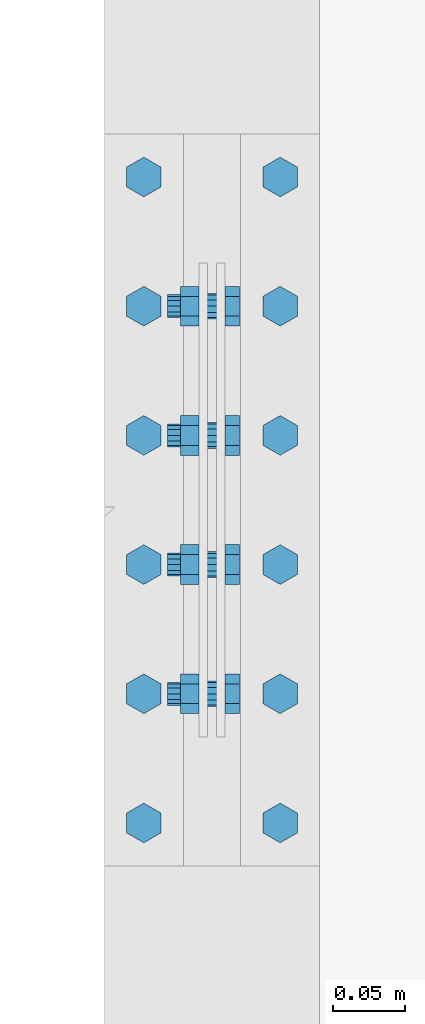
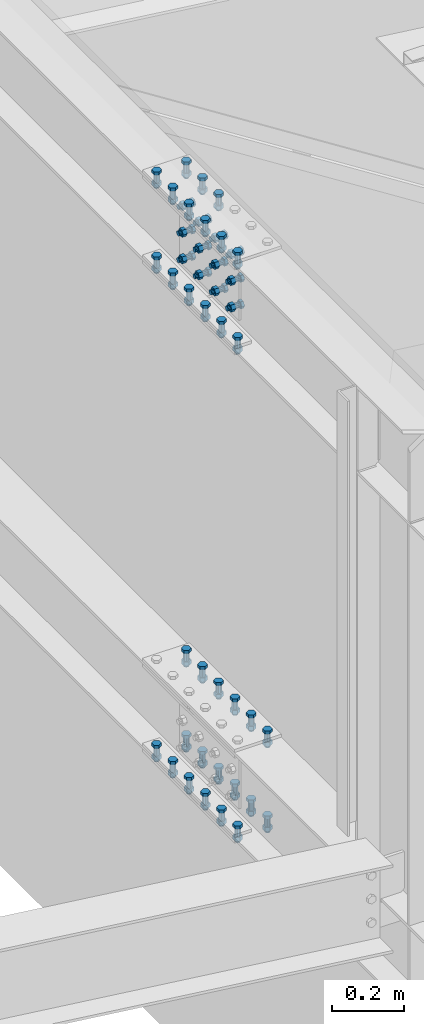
# One storey, part 376 of 3134: 13 mechanical fasteners, 2 elements without a shape of their own.
"""IFC2X3 building model written with IfcOpenShell, lengths in millimetres."""

import ifcopenshell
import ifcopenshell.guid

model = None  # the IFC model being written
_history = None  # IfcOwnerHistory: only IFC2X3 demands one
_inside = {}  # id of a spatial element -> (the spatial element, [elements in it])
_under = {}  # id of a project, library or spatial element -> (it, [spatial elements below it])
_declared = {}  # id of a project -> (the project, [libraries it declares])
_typed = {}  # id of a type object -> (the type object, [elements of that type])
_made_of = {}  # id of a material, layer set ... -> (it, [elements and type objects made of it])


def new_model(schema):
    """Start an empty IFC model of exactly this schema.

    Asked for "IFC4X3", IfcOpenShell would pick the latest addendum, in which some entities
    have other attributes; the version numbers below select the first issue.
    IFC2X3 requires an IfcOwnerHistory on every rooted entity: one is made here for all.
    """
    global model, _history
    if schema == "IFC4X3":
        model = ifcopenshell.file(schema_version=(4, 3, 0, 0))
    else:
        model = ifcopenshell.file(schema=schema)
    _inside.clear()
    _under.clear()
    _declared.clear()
    _typed.clear()
    _made_of.clear()
    _history = None
    if model.schema == "IFC2X3":
        org = make("IfcOrganization", Name="unknown")
        user = make(
            "IfcPersonAndOrganization",
            ThePerson=make("IfcPerson", FamilyName="unknown"),
            TheOrganization=org,
        )
        app = make(
            "IfcApplication",
            ApplicationDeveloper=org,
            Version="unknown",
            ApplicationFullName="unknown",
            ApplicationIdentifier="unknown",
        )
        _history = make(
            "IfcOwnerHistory",
            OwningUser=user,
            OwningApplication=app,
            ChangeAction="ADDED",
            CreationDate=0,
        )
    return model


def make(cls, **values):
    """One entity of the class cls with the attributes given. An attribute that is None is left unset."""
    return model.create_entity(
        cls, **{name: value for name, value in values.items() if value is not None}
    )


def rooted(cls, **values):
    """An entity with a GlobalId (a new one), such as an element, a storey or a relation."""
    return make(cls, GlobalId=ifcopenshell.guid.new(), OwnerHistory=_history, **values)


def si_unit(unit_type, name, prefix=None):
    """IfcSIUnit, for example si_unit("LENGTHUNIT", "METRE", prefix="MILLI")."""
    return make("IfcSIUnit", UnitType=unit_type, Prefix=prefix, Name=name)


def assignment(units):
    """IfcUnitAssignment: the units of a project."""
    return None if units is None else make("IfcUnitAssignment", Units=units)


def point(xyz):
    """IfcCartesianPoint."""
    return None if xyz is None else make("IfcCartesianPoint", Coordinates=xyz)


def direction(xyz):
    """IfcDirection."""
    return None if xyz is None else make("IfcDirection", DirectionRatios=xyz)


def frame(location, z_axis=None, x_axis=None):
    """IfcAxis2Placement3D, a coordinate frame: its origin and axes. An axis left out is left unset."""
    return make(
        "IfcAxis2Placement3D",
        Location=point(location),
        Axis=direction(z_axis),
        RefDirection=direction(x_axis),
    )


def origin_with_axes():
    """The frame at (0, 0, 0) with the z axis (0, 0, 1) and the x axis (1, 0, 0) written out."""
    return frame((0.0, 0.0, 0.0), z_axis=(0.0, 0.0, 1.0), x_axis=(1.0, 0.0, 0.0))


def place(relative_to, where):
    """IfcLocalPlacement: puts the frame where relative to a parent placement (None: the world)."""
    return make(
        "IfcLocalPlacement", PlacementRelTo=relative_to, RelativePlacement=where
    )


def context(
    kind, dimensions, precision=None, world=None, true_north=None, identifier=None
):
    """IfcGeometricRepresentationContext, for example the 3D "Model" context."""
    return make(
        "IfcGeometricRepresentationContext",
        ContextIdentifier=identifier,
        ContextType=kind,
        CoordinateSpaceDimension=dimensions,
        Precision=precision,
        WorldCoordinateSystem=world,
        TrueNorth=true_north,
    )


def subcontext(parent, identifier, kind, view, scale=None):
    """IfcGeometricRepresentationSubContext, for example "Body" below "Model"."""
    return make(
        "IfcGeometricRepresentationSubContext",
        ContextIdentifier=identifier,
        ContextType=kind,
        ParentContext=parent,
        TargetScale=scale,
        TargetView=view,
    )


def project(units=None, contexts=None):
    """IfcProject with its units and contexts."""
    return rooted(
        "IfcProject",
        Name="project",
        RepresentationContexts=contexts,
        UnitsInContext=assignment(units),
    )


def spatial(cls, under=None, at=None, **own):
    """A site, building, storey or space (cls), placed at a placement, below another one or the project."""
    s = rooted(cls, ObjectPlacement=at, **own)
    if under is not None:
        _under.setdefault(under.id(), (under, []))[1].append(s)
    return s


def faces_of(points, faces, orient=None, outer=None):
    """IfcFace entities. A face is a list of loops; a loop is a list of indices into points, from 0.

    orient and outer hold one flag for each loop. By default every Orientation is true, the
    first loop of a face is its IfcFaceOuterBound and the others are IfcFaceBound.
    """
    made = []
    for i, loops in enumerate(faces):
        bounds = []
        for j, loop in enumerate(loops):
            is_outer = j == 0 if outer is None else outer[i][j]
            bounds.append(
                make(
                    "IfcFaceOuterBound" if is_outer else "IfcFaceBound",
                    Bound=make("IfcPolyLoop", Polygon=[points[k] for k in loop]),
                    Orientation=True if orient is None else orient[i][j],
                )
            )
        made.append(make("IfcFace", Bounds=bounds))
    return made


def faceted_brep(points, faces, orient=None, outer=None, voids=None):
    """IfcFacetedBrep: a solid bounded by flat faces; with voids (closed shells), ...WithVoids."""
    shared = [point(p) for p in points]
    hull = make("IfcClosedShell", CfsFaces=faces_of(shared, faces, orient, outer))
    if voids is None:
        return make("IfcFacetedBrep", Outer=hull)
    return make(
        "IfcFacetedBrepWithVoids",
        Outer=hull,
        Voids=[
            make(cls, CfsFaces=faces_of(shared, fs, o, b)) for cls, fs, o, b in voids
        ],
    )


def shape(context_of_items, identifier, shape_type, items):
    """IfcShapeRepresentation: the items that make up one representation, for example the "Body"."""
    return make(
        "IfcShapeRepresentation",
        ContextOfItems=context_of_items,
        RepresentationIdentifier=identifier,
        RepresentationType=shape_type,
        Items=items,
    )


def source(mapping_origin, context_of_items, identifier, shape_type, items):
    """IfcRepresentationMap: a shape defined once, which mapped items show again and again."""
    return make(
        "IfcRepresentationMap",
        MappingOrigin=mapping_origin,
        MappedRepresentation=shape(context_of_items, identifier, shape_type, items),
    )


def transform(
    local_origin,
    x_axis=None,
    y_axis=None,
    z_axis=None,
    scale=None,
    scale2=None,
    scale3=None,
    uniform=True,
):
    """IfcCartesianTransformationOperator3D, or its non-uniform kind. x_axis, y_axis, z_axis: its Axis1, 2, 3."""
    if uniform:
        return make(
            "IfcCartesianTransformationOperator3D",
            Axis1=direction(x_axis),
            Axis2=direction(y_axis),
            LocalOrigin=point(local_origin),
            Scale=scale,
            Axis3=direction(z_axis),
        )
    return make(
        "IfcCartesianTransformationOperator3DnonUniform",
        Axis1=direction(x_axis),
        Axis2=direction(y_axis),
        LocalOrigin=point(local_origin),
        Scale=scale,
        Axis3=direction(z_axis),
        Scale2=scale2,
        Scale3=scale3,
    )


def mapped(mapping_source, mapping_target):
    """IfcMappedItem: shows the shape of a source again, moved by a transform."""
    return make(
        "IfcMappedItem", MappingSource=mapping_source, MappingTarget=mapping_target
    )


def material(Name=None, Category=None):
    """IfcMaterial."""
    return make("IfcMaterial", Name=Name, Category=Category)


def made_of(thing, what):
    """Note that an element or type object is made of a material, layer set ...; save() writes the relation."""
    if what is not None:
        _made_of.setdefault(what.id(), (what, []))[1].append(thing)
    return thing


def type_object(cls, material=None, **own):
    """A type object (cls), such as IfcWallType, which elements share."""
    return made_of(rooted(cls, **own), material)


def element(
    cls,
    number,
    at=None,
    inside=None,
    cuts=None,
    type_object=None,
    material=None,
    context=None,
    identifier="Body",
    shape_type=None,
    held_by="IfcProductDefinitionShape",
    body=None,
    shapes=None,
    **own,
):
    """One element of the class cls, such as IfcWall. Its Tag is "e" and its number.

    at: its placement. inside: the storey or other place that contains it. cuts: it is an
    opening in that element (IfcRelVoidsElement). A single representation is given by context,
    identifier, shape_type and body (its items); several are given by shapes. held_by: the class
    of the entity that holds the representations. save() writes the other relations.
    """
    e = rooted(cls, Tag="e%d" % number, ObjectPlacement=at, **own)
    if body is not None:
        shapes = [shape(context, identifier, shape_type, body)]
    if shapes is not None:
        e.Representation = make(held_by, Representations=shapes)
    if inside is not None:
        _inside.setdefault(inside.id(), (inside, []))[1].append(e)
    if cuts is not None:
        rooted(
            "IfcRelVoidsElement", RelatingBuildingElement=cuts, RelatedOpeningElement=e
        )
    if type_object is not None:
        _typed.setdefault(type_object.id(), (type_object, []))[1].append(e)
    return made_of(e, material)


def aggregate(whole, parts):
    """IfcRelAggregates: a whole, such as a stair, and the parts it consists of."""
    return rooted("IfcRelAggregates", RelatingObject=whole, RelatedObjects=parts)


def save(model, path):
    """Write the relations noted so far, then the file.

    IfcRelAggregates (storeys below a building ...), IfcRelContainedInSpatialStructure (elements
    in a storey), IfcRelDefinesByType, IfcRelAssociatesMaterial and IfcRelDeclares: one each for
    every whole, place, type object, material and project.
    """
    for whole, parts in _under.values():
        aggregate(whole, parts)
    for where, things in _inside.values():
        rooted(
            "IfcRelContainedInSpatialStructure",
            RelatedElements=things,
            RelatingStructure=where,
        )
    for kind, things in _typed.values():
        rooted("IfcRelDefinesByType", RelatedObjects=things, RelatingType=kind)
    for what, things in _made_of.values():
        rooted("IfcRelAssociatesMaterial", RelatedObjects=things, RelatingMaterial=what)
    for by, libraries in _declared.values():
        rooted("IfcRelDeclares", RelatingContext=by, RelatedDefinitions=libraries)
    model.write(path)


model = new_model("IFC2X3")

# Units and contexts
model_context = context("Model", 3, precision=1e-05, world=origin_with_axes())
body_context = subcontext(model_context, "Body", "Model", "MODEL_VIEW")
ifc_project = project(units=[si_unit("LENGTHUNIT", "METRE", prefix="MILLI"), si_unit("AREAUNIT", "SQUARE_METRE"), si_unit("VOLUMEUNIT", "CUBIC_METRE"), si_unit("MASSUNIT", "GRAM", prefix="KILO"), si_unit("TIMEUNIT", "SECOND"), si_unit("PLANEANGLEUNIT", "RADIAN"), si_unit("SOLIDANGLEUNIT", "STERADIAN"), si_unit("THERMODYNAMICTEMPERATUREUNIT", "DEGREE_CELSIUS"), si_unit("LUMINOUSINTENSITYUNIT", "LUMEN")], contexts=[model_context])

# Site, building, storey
site_placement = place(None, origin_with_axes())
site = spatial("IfcSite", under=ifc_project, at=site_placement, CompositionType="ELEMENT")
building_placement = place(site_placement, origin_with_axes())
building = spatial("IfcBuilding", under=site, at=building_placement, Name="Undefined", CompositionType="ELEMENT")
storey_placement = place(building_placement, origin_with_axes())
storey = spatial("IfcBuildingStorey", under=building, at=storey_placement, Name="Undefined", CompositionType="ELEMENT", Elevation=0.0)

# Assembly, mechanical fastener
assembly_1_placement = place(storey_placement, origin_with_axes())
assembly_1 = element("IfcElementAssembly", 1, at=assembly_1_placement, inside=storey, Name="300", AssemblyPlace="NOTDEFINED", PredefinedType="RIGID_FRAME")
ifc_material = material(Name="8.8")
mechanical_fastener_type = type_object("IfcMechanicalFastenerType", Name="Bolt assembly")
shared_shape_1 = source(origin_with_axes(), body_context, "Body", "Brep", [
    faceted_brep([(13.856406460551, -19.0499999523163, 0.0), (6.92820323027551, -19.0499999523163, 12.0), (-6.92820323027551, -19.0499999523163, 12.0), (-13.856406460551, -19.0499999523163, 1.69692038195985e-15), (-6.92820323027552, -19.0499999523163, -12.0), (6.9282032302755, -19.0499999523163, -12.0), (6.9282032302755, -9.04999995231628, -12.0), (-6.92820323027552, -9.04999995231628, -12.0), (-13.856406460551, -9.04999995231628, 1.69692038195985e-15), (-6.92820323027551, -9.04999995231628, 12.0), (6.92820323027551, -9.04999995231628, 12.0), (13.856406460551, -9.04999995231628, 0.0), (8.0, -9.04999995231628, 0.0), (6.92820323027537, -9.04999995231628, 4.00000000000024), (3.99999999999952, -9.04999995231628, 6.92820323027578), (-8.29068785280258e-13, -9.04999995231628, 8.0), (-4.00000000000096, -9.04999995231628, 6.92820323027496), (-6.9282032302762, -9.04999995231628, 3.99999999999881), (-8.0, -9.04999995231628, -1.65813757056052e-12), (-6.92820323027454, -9.04999995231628, -4.00000000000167), (-3.99999999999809, -9.04999995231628, -6.92820323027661), (2.47832457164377e-12, -9.04999995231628, -8.0), (4.00000000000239, -9.04999995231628, -6.92820323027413), (6.92820323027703, -9.04999995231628, -3.99999999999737), (6.92820323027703, 30.9500000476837, -3.99999999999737), (4.00000000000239, 30.9500000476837, -6.92820323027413), (2.47832457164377e-12, 30.9500000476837, -8.0), (-3.99999999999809, 30.9500000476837, -6.92820323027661), (-6.92820323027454, 30.9500000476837, -4.00000000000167), (-8.0, 30.9500000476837, -1.65813757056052e-12), (-6.9282032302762, 30.9500000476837, 3.99999999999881), (-4.00000000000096, 30.9500000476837, 6.92820323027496), (-8.29068785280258e-13, 30.9500000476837, 8.0), (3.99999999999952, 30.9500000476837, 6.92820323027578), (6.92820323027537, 30.9500000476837, 4.00000000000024), (8.0, 30.9500000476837, 0.0), (13.856406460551, 9.04999995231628, 0.0), (6.92820323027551, 9.04999995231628, 12.0), (-6.92820323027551, 9.04999995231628, 12.0), (-13.856406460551, 9.04999995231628, 1.69692038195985e-15), (-6.92820323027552, 9.04999995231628, -12.0), (6.9282032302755, 9.04999995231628, -12.0), (6.9282032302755, 22.0499999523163, -12.0), (-6.92820323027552, 22.0499999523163, -12.0), (-13.856406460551, 22.0499999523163, 1.69692038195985e-15), (-6.92820323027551, 22.0499999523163, 12.0), (6.92820323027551, 22.0499999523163, 12.0), (13.856406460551, 22.0499999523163, 0.0)], [[[0, 1, 2, 3, 4, 5]], [[6, 7, 8, 9, 10, 11]], [[0, 11, 10, 1]], [[1, 10, 9, 2]], [[2, 9, 8, 3]], [[3, 8, 7, 4]], [[4, 7, 6, 5]], [[5, 6, 11, 0]], [[12, 13, 14, 15, 16, 17, 18, 19, 20, 21, 22, 23]], [[24, 25, 26, 27, 28, 29, 30, 31, 32, 33, 34, 35]], [[12, 35, 34, 13]], [[13, 34, 33, 14]], [[14, 33, 32, 15]], [[15, 32, 31, 16]], [[16, 31, 30, 17]], [[17, 30, 29, 18]], [[18, 29, 28, 19]], [[19, 28, 27, 20]], [[20, 27, 26, 21]], [[21, 26, 25, 22]], [[22, 25, 24, 23]], [[23, 24, 35, 12]], [[36, 37, 38, 39, 40, 41]], [[42, 43, 44, 45, 46, 47]], [[36, 47, 46, 37]], [[37, 46, 45, 38]], [[38, 45, 44, 39]], [[39, 44, 43, 40]], [[40, 43, 42, 41]], [[41, 42, 47, 36]]]),
    faceted_brep([(9.0, -8.94999995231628, 0.0), (7.79422863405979, -8.94999995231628, 4.50000000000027), (4.49999999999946, -8.94999995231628, 7.79422863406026), (-9.3270238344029e-13, -8.94999995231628, 9.0), (-4.50000000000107, -8.94999995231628, 7.79422863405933), (-7.79422863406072, -8.94999995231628, 4.49999999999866), (-9.0, -8.94999995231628, -1.86540476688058e-12), (-7.79422863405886, -8.94999995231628, -4.50000000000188), (-4.49999999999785, -8.94999995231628, -7.79422863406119), (2.78811514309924e-12, -8.94999995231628, -9.0), (4.50000000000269, -8.94999995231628, -7.7942286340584), (7.79422863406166, -8.94999995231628, -4.49999999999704), (7.79422863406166, -2.94999995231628, -4.49999999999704), (4.50000000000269, -2.94999995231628, -7.7942286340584), (2.78811514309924e-12, -2.94999995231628, -9.0), (-4.49999999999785, -2.94999995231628, -7.79422863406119), (-7.79422863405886, -2.94999995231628, -4.50000000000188), (-9.0, -2.94999995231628, -1.86540476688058e-12), (-7.79422863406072, -2.94999995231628, 4.49999999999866), (-4.50000000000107, -2.94999995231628, 7.79422863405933), (-9.3270238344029e-13, -2.94999995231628, 9.0), (4.49999999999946, -2.94999995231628, 7.79422863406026), (7.79422863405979, -2.94999995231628, 4.50000000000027), (9.0, -2.94999995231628, 0.0), (9.0, -3.04999995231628, 0.0), (7.79422863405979, -3.04999995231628, 4.50000000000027), (4.49999999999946, -3.04999995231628, 7.79422863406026), (-9.3270238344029e-13, -3.04999995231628, 9.0), (-4.50000000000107, -3.04999995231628, 7.79422863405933), (-7.79422863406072, -3.04999995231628, 4.49999999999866), (-9.0, -3.04999995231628, -1.86540476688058e-12), (-7.79422863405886, -3.04999995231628, -4.50000000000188), (-4.49999999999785, -3.04999995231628, -7.79422863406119), (2.78811514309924e-12, -3.04999995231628, -9.0), (4.50000000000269, -3.04999995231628, -7.7942286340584), (7.79422863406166, -3.04999995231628, -4.49999999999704), (7.79422863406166, 3.04999995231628, -4.49999999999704), (4.50000000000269, 3.04999995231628, -7.7942286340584), (2.78811514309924e-12, 3.04999995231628, -9.0), (-4.49999999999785, 3.04999995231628, -7.79422863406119), (-7.79422863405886, 3.04999995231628, -4.50000000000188), (-9.0, 3.04999995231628, -1.86540476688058e-12), (-7.79422863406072, 3.04999995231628, 4.49999999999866), (-4.50000000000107, 3.04999995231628, 7.79422863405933), (-9.3270238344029e-13, 3.04999995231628, 9.0), (4.49999999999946, 3.04999995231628, 7.79422863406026), (7.79422863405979, 3.04999995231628, 4.50000000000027), (9.0, 3.04999995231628, 0.0), (9.0, 2.95000000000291, 0.0), (7.79422863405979, 2.95000000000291, 4.50000000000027), (4.49999999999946, 2.95000000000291, 7.79422863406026), (-9.3270238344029e-13, 2.95000000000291, 9.0), (-4.50000000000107, 2.95000000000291, 7.79422863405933), (-7.79422863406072, 2.95000000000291, 4.49999999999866), (-9.0, 2.95000000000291, -1.86540476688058e-12), (-7.79422863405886, 2.95000000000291, -4.50000000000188), (-4.49999999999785, 2.95000000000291, -7.79422863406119), (2.78811514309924e-12, 2.95000000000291, -9.0), (4.50000000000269, 2.95000000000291, -7.7942286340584), (7.79422863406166, 2.95000000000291, -4.49999999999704), (7.79422863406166, 9.04999995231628, -4.49999999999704), (4.50000000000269, 9.04999995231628, -7.7942286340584), (2.78811514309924e-12, 9.04999995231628, -9.0), (-4.49999999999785, 9.04999995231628, -7.79422863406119), (-7.79422863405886, 9.04999995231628, -4.50000000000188), (-9.0, 9.04999995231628, -1.86540476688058e-12), (-7.79422863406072, 9.04999995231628, 4.49999999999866), (-4.50000000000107, 9.04999995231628, 7.79422863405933), (-9.3270238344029e-13, 9.04999995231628, 9.0), (4.49999999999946, 9.04999995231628, 7.79422863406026), (7.79422863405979, 9.04999995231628, 4.50000000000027), (9.0, 9.04999995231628, 0.0)], [[[0, 1, 2, 3, 4, 5, 6, 7, 8, 9, 10, 11]], [[12, 13, 14, 15, 16, 17, 18, 19, 20, 21, 22, 23]], [[0, 23, 22, 1]], [[1, 22, 21, 2]], [[2, 21, 20, 3]], [[3, 20, 19, 4]], [[4, 19, 18, 5]], [[5, 18, 17, 6]], [[6, 17, 16, 7]], [[7, 16, 15, 8]], [[8, 15, 14, 9]], [[9, 14, 13, 10]], [[10, 13, 12, 11]], [[11, 12, 23, 0]], [[24, 25, 26, 27, 28, 29, 30, 31, 32, 33, 34, 35]], [[36, 37, 38, 39, 40, 41, 42, 43, 44, 45, 46, 47]], [[24, 47, 46, 25]], [[25, 46, 45, 26]], [[26, 45, 44, 27]], [[27, 44, 43, 28]], [[28, 43, 42, 29]], [[29, 42, 41, 30]], [[30, 41, 40, 31]], [[31, 40, 39, 32]], [[32, 39, 38, 33]], [[33, 38, 37, 34]], [[34, 37, 36, 35]], [[35, 36, 47, 24]], [[48, 49, 50, 51, 52, 53, 54, 55, 56, 57, 58, 59]], [[60, 61, 62, 63, 64, 65, 66, 67, 68, 69, 70, 71]], [[48, 71, 70, 49]], [[49, 70, 69, 50]], [[50, 69, 68, 51]], [[51, 68, 67, 52]], [[52, 67, 66, 53]], [[53, 66, 65, 54]], [[54, 65, 64, 55]], [[55, 64, 63, 56]], [[56, 63, 62, 57]], [[57, 62, 61, 58]], [[58, 61, 60, 59]], [[59, 60, 71, 48]]]),
])
mechanical_fastener_1_placement = place(assembly_1_placement, frame((67550.0, 28369.9, 5741.5), z_axis=(0.0, 0.0, 1.0), x_axis=(0.0, 1.0, 0.0)))
mechanical_fastener_1 = element("IfcMechanicalFastener", 2, at=mechanical_fastener_1_placement, type_object=mechanical_fastener_type, material=ifc_material, Name="Bolt assembly", NominalDiameter=16.0, NominalLength=40.0, context=body_context, shape_type="MappedRepresentation", body=[
    mapped(shared_shape_1, transform((0.0, 0.0, -90.0))),
    mapped(shared_shape_1, transform((90.0, 0.0, -90.0))),
    mapped(shared_shape_1, transform((0.0, 0.0, 0.0))),
    mapped(shared_shape_1, transform((90.0, 0.0, 0.0))),
    mapped(shared_shape_1, transform((0.0, 0.0, 90.0))),
    mapped(shared_shape_1, transform((90.0, 0.0, 90.0))),
])

# Assembly, mechanical fasteners
assembly_2_placement = place(storey_placement, origin_with_axes())
assembly_2 = element("IfcElementAssembly", 3, at=assembly_2_placement, inside=storey, Name="300", AssemblyPlace="NOTDEFINED", PredefinedType="RIGID_FRAME")
mechanical_fastener_2_placement = place(assembly_2_placement, frame((67550.0, 28189.9, 5741.5), z_axis=(0.0, 0.0, 1.0), x_axis=(0.0, 1.0, 0.0)))
mechanical_fastener_2 = element("IfcMechanicalFastener", 4, at=mechanical_fastener_2_placement, type_object=mechanical_fastener_type, material=ifc_material, Name="Bolt assembly", NominalDiameter=16.0, NominalLength=40.0, context=body_context, shape_type="MappedRepresentation", body=[
    mapped(shared_shape_1, transform((0.0, 0.0, -90.0))),
    mapped(shared_shape_1, transform((90.0, 0.0, -90.0))),
    mapped(shared_shape_1, transform((0.0, 0.0, 0.0))),
    mapped(shared_shape_1, transform((90.0, 0.0, 0.0))),
    mapped(shared_shape_1, transform((0.0, 0.0, 90.0))),
    mapped(shared_shape_1, transform((90.0, 0.0, 90.0))),
])
shared_shape_2 = source(origin_with_axes(), body_context, "Body", "Brep", [
    faceted_brep([(13.856406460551, -29.1999998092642, 0.0), (6.92820323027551, -29.1999998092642, 12.0), (-6.92820323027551, -29.1999998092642, 12.0), (-13.856406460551, -29.1999998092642, 1.69692038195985e-15), (-6.92820323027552, -29.1999998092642, -12.0), (6.9282032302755, -29.1999998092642, -12.0), (6.9282032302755, -19.199990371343, -12.0), (-6.92820323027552, -19.199990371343, -12.0), (-13.856406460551, -19.199990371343, 1.69692038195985e-15), (-6.92820323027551, -19.199990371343, 12.0), (6.92820323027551, -19.199990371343, 12.0), (13.856406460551, -19.199990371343, 0.0), (8.0, -19.1999998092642, 0.0), (6.92820323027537, -19.1999998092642, 4.00000000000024), (3.99999999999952, -19.1999998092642, 6.92820323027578), (-8.29068785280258e-13, -19.1999998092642, 8.0), (-4.00000000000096, -19.1999998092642, 6.92820323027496), (-6.9282032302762, -19.1999998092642, 3.99999999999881), (-8.0, -19.1999998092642, -1.65813757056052e-12), (-6.92820323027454, -19.1999998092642, -4.00000000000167), (-3.99999999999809, -19.1999998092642, -6.92820323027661), (2.47832457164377e-12, -19.1999998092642, -8.0), (4.00000000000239, -19.1999998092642, -6.92820323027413), (6.92820323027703, -19.1999998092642, -3.99999999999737), (6.92820323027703, 30.8000001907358, -3.99999999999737), (4.00000000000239, 30.8000001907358, -6.92820323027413), (2.47832457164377e-12, 30.8000001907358, -8.0), (-3.99999999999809, 30.8000001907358, -6.92820323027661), (-6.92820323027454, 30.8000001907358, -4.00000000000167), (-8.0, 30.8000001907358, -1.65813757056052e-12), (-6.9282032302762, 30.8000001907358, 3.99999999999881), (-4.00000000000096, 30.8000001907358, 6.92820323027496), (-8.29068785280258e-13, 30.8000001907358, 8.0), (3.99999999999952, 30.8000001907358, 6.92820323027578), (6.92820323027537, 30.8000001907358, 4.00000000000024), (8.0, 30.8000001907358, 0.0), (13.856406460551, 9.99999995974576, 0.0), (6.92820323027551, 9.99999995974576, 12.0), (-6.92820323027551, 9.99999995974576, 12.0), (-13.856406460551, 9.99999995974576, 1.69692038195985e-15), (-6.92820323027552, 9.99999995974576, -12.0), (6.9282032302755, 9.99999995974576, -12.0), (6.9282032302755, 22.9999913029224, -12.0), (-6.92820323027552, 22.9999913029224, -12.0), (-13.856406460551, 22.9999913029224, 1.69692038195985e-15), (-6.92820323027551, 22.9999913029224, 12.0), (6.92820323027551, 22.9999913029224, 12.0), (13.856406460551, 22.9999913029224, 0.0)], [[[0, 1, 2, 3, 4, 5]], [[6, 7, 8, 9, 10, 11]], [[0, 11, 10, 1]], [[1, 10, 9, 2]], [[2, 9, 8, 3]], [[3, 8, 7, 4]], [[4, 7, 6, 5]], [[5, 6, 11, 0]], [[12, 13, 14, 15, 16, 17, 18, 19, 20, 21, 22, 23]], [[24, 25, 26, 27, 28, 29, 30, 31, 32, 33, 34, 35]], [[12, 35, 34, 13]], [[13, 34, 33, 14]], [[14, 33, 32, 15]], [[15, 32, 31, 16]], [[16, 31, 30, 17]], [[17, 30, 29, 18]], [[18, 29, 28, 19]], [[19, 28, 27, 20]], [[20, 27, 26, 21]], [[21, 26, 25, 22]], [[22, 25, 24, 23]], [[23, 24, 35, 12]], [[36, 37, 38, 39, 40, 41]], [[42, 43, 44, 45, 46, 47]], [[36, 47, 46, 37]], [[37, 46, 45, 38]], [[38, 45, 44, 39]], [[39, 44, 43, 40]], [[40, 43, 42, 41]], [[41, 42, 47, 36]]]),
    faceted_brep([(9.0, -19.0999998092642, 0.0), (7.79422863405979, -19.0999998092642, 4.50000000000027), (4.49999999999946, -19.0999998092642, 7.79422863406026), (-9.3270238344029e-13, -19.0999998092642, 9.0), (-4.50000000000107, -19.0999998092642, 7.79422863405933), (-7.79422863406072, -19.0999998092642, 4.49999999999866), (-9.0, -19.0999998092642, -1.86540476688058e-12), (-7.79422863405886, -19.0999998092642, -4.50000000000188), (-4.49999999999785, -19.0999998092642, -7.79422863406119), (2.78811514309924e-12, -19.0999998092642, -9.0), (4.50000000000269, -19.0999998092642, -7.7942286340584), (7.79422863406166, -19.0999998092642, -4.49999999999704), (7.79422863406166, -9.09999037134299, -4.49999999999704), (4.50000000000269, -9.09999037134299, -7.7942286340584), (2.78811514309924e-12, -9.09999037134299, -9.0), (-4.49999999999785, -9.09999037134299, -7.79422863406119), (-7.79422863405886, -9.09999037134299, -4.50000000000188), (-9.0, -9.09999037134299, -1.86540476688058e-12), (-7.79422863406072, -9.09999037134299, 4.49999999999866), (-4.50000000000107, -9.09999037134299, 7.79422863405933), (-9.3270238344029e-13, -9.09999037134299, 9.0), (4.49999999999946, -9.09999037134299, 7.79422863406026), (7.79422863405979, -9.09999037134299, 4.50000000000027), (9.0, -9.09999037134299, 0.0), (9.0, -9.20000008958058, 0.0), (7.79422863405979, -9.20000008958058, 4.50000000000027), (4.49999999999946, -9.20000008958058, 7.79422863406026), (-9.3270238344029e-13, -9.20000008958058, 9.0), (-4.50000000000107, -9.20000008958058, 7.79422863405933), (-7.79422863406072, -9.20000008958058, 4.49999999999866), (-9.0, -9.20000008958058, -1.86540476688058e-12), (-7.79422863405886, -9.20000008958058, -4.50000000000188), (-4.49999999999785, -9.20000008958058, -7.79422863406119), (2.78811514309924e-12, -9.20000008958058, -9.0), (4.50000000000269, -9.20000008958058, -7.7942286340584), (7.79422863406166, -9.20000008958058, -4.49999999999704), (7.79422863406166, -3.46568413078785e-07, -4.49999999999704), (4.50000000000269, -3.46568413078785e-07, -7.7942286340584), (2.78811514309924e-12, -3.46568413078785e-07, -9.0), (-4.49999999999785, -3.46568413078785e-07, -7.79422863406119), (-7.79422863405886, -3.46568413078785e-07, -4.50000000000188), (-9.0, -3.46568413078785e-07, -1.86540476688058e-12), (-7.79422863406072, -3.46568413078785e-07, 4.49999999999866), (-4.50000000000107, -3.46568413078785e-07, 7.79422863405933), (-9.3270238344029e-13, -3.46568413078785e-07, 9.0), (4.49999999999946, -3.46568413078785e-07, 7.79422863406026), (7.79422863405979, -3.46568413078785e-07, 4.50000000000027), (9.0, -3.46568413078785e-07, 0.0), (9.0, -0.1, 0.0), (7.79422863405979, -0.1, 4.50000000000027), (4.49999999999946, -0.1, 7.79422863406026), (-9.3270238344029e-13, -0.1, 9.0), (-4.50000000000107, -0.1, 7.79422863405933), (-7.79422863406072, -0.1, 4.49999999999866), (-9.0, -0.1, -1.86540476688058e-12), (-7.79422863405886, -0.1, -4.50000000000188), (-4.49999999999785, -0.1, -7.79422863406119), (2.78811514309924e-12, -0.1, -9.0), (4.50000000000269, -0.1, -7.7942286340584), (7.79422863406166, -0.1, -4.49999999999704), (7.79422863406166, 9.99999995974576, -4.49999999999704), (4.50000000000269, 9.99999995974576, -7.7942286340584), (2.78811514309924e-12, 9.99999995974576, -9.0), (-4.49999999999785, 9.99999995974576, -7.79422863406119), (-7.79422863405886, 9.99999995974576, -4.50000000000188), (-9.0, 9.99999995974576, -1.86540476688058e-12), (-7.79422863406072, 9.99999995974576, 4.49999999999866), (-4.50000000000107, 9.99999995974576, 7.79422863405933), (-9.3270238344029e-13, 9.99999995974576, 9.0), (4.49999999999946, 9.99999995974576, 7.79422863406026), (7.79422863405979, 9.99999995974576, 4.50000000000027), (9.0, 9.99999995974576, 0.0)], [[[0, 1, 2, 3, 4, 5, 6, 7, 8, 9, 10, 11]], [[12, 13, 14, 15, 16, 17, 18, 19, 20, 21, 22, 23]], [[0, 23, 22, 1]], [[1, 22, 21, 2]], [[2, 21, 20, 3]], [[3, 20, 19, 4]], [[4, 19, 18, 5]], [[5, 18, 17, 6]], [[6, 17, 16, 7]], [[7, 16, 15, 8]], [[8, 15, 14, 9]], [[9, 14, 13, 10]], [[10, 13, 12, 11]], [[11, 12, 23, 0]], [[24, 25, 26, 27, 28, 29, 30, 31, 32, 33, 34, 35]], [[36, 37, 38, 39, 40, 41, 42, 43, 44, 45, 46, 47]], [[24, 47, 46, 25]], [[25, 46, 45, 26]], [[26, 45, 44, 27]], [[27, 44, 43, 28]], [[28, 43, 42, 29]], [[29, 42, 41, 30]], [[30, 41, 40, 31]], [[31, 40, 39, 32]], [[32, 39, 38, 33]], [[33, 38, 37, 34]], [[34, 37, 36, 35]], [[35, 36, 47, 24]], [[48, 49, 50, 51, 52, 53, 54, 55, 56, 57, 58, 59]], [[60, 61, 62, 63, 64, 65, 66, 67, 68, 69, 70, 71]], [[48, 71, 70, 49]], [[49, 70, 69, 50]], [[50, 69, 68, 51]], [[51, 68, 67, 52]], [[52, 67, 66, 53]], [[53, 66, 65, 54]], [[54, 65, 64, 55]], [[55, 64, 63, 56]], [[56, 63, 62, 57]], [[57, 62, 61, 58]], [[58, 61, 60, 59]], [[59, 60, 71, 48]]]),
])
mechanical_fastener_3_placement = place(assembly_2_placement, frame((67597.5, 28099.9, 4227.80000019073), z_axis=(-1.0, 0.0, 0.0), x_axis=(0.0, 1.0, 0.0)))
mechanical_fastener_3 = element("IfcMechanicalFastener", 5, at=mechanical_fastener_3_placement, type_object=mechanical_fastener_type, material=ifc_material, Name="Bolt assembly", NominalDiameter=16.0, NominalLength=50.0, context=body_context, shape_type="MappedRepresentation", body=[
    mapped(shared_shape_2, transform((0.0, 0.0, 0.0))),
    mapped(shared_shape_2, transform((90.0, 0.0, 0.0))),
    mapped(shared_shape_2, transform((180.0, 0.0, 0.0))),
])

# Mechanical fastener
mechanical_fastener_4_placement = place(assembly_1_placement, frame((67597.5, 28369.9, 4227.80000019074), z_axis=(-1.0, 0.0, 0.0), x_axis=(0.0, 1.0, 0.0)))
mechanical_fastener_4 = element("IfcMechanicalFastener", 6, at=mechanical_fastener_4_placement, type_object=mechanical_fastener_type, material=ifc_material, Name="Bolt assembly", NominalDiameter=16.0, NominalLength=50.0, context=body_context, shape_type="MappedRepresentation", body=[
    mapped(shared_shape_2, transform((0.0, 0.0, 0.0))),
    mapped(shared_shape_2, transform((90.0, 0.0, 0.0))),
    mapped(shared_shape_2, transform((180.0, 0.0, 0.0))),
])

mechanical_fastener_5_placement = place(assembly_1_placement, frame((67597.5, 28369.9, 5880.80000019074), z_axis=(-1.0, 0.0, 0.0), x_axis=(0.0, 1.0, 0.0)))
mechanical_fastener_5 = element("IfcMechanicalFastener", 7, at=mechanical_fastener_5_placement, type_object=mechanical_fastener_type, material=ifc_material, Name="Bolt assembly", NominalDiameter=16.0, NominalLength=50.0, context=body_context, shape_type="MappedRepresentation", body=[
    mapped(shared_shape_2, transform((0.0, 0.0, 0.0))),
    mapped(shared_shape_2, transform((90.0, 0.0, 0.0))),
    mapped(shared_shape_2, transform((180.0, 0.0, 0.0))),
])

mechanical_fastener_6_placement = place(assembly_1_placement, frame((67502.5, 28369.9, 5880.80000019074), z_axis=(-1.0, 0.0, 0.0), x_axis=(0.0, 1.0, 0.0)))
mechanical_fastener_6 = element("IfcMechanicalFastener", 8, at=mechanical_fastener_6_placement, type_object=mechanical_fastener_type, material=ifc_material, Name="Bolt assembly", NominalDiameter=16.0, NominalLength=50.0, context=body_context, shape_type="MappedRepresentation", body=[
    mapped(shared_shape_2, transform((0.0, 0.0, 0.0))),
    mapped(shared_shape_2, transform((90.0, 0.0, 0.0))),
    mapped(shared_shape_2, transform((180.0, 0.0, 0.0))),
])

mechanical_fastener_7_placement = place(assembly_2_placement, frame((67502.5, 28099.9, 5880.80000019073), z_axis=(-1.0, 0.0, 0.0), x_axis=(0.0, 1.0, 0.0)))
mechanical_fastener_7 = element("IfcMechanicalFastener", 9, at=mechanical_fastener_7_placement, type_object=mechanical_fastener_type, material=ifc_material, Name="Bolt assembly", NominalDiameter=16.0, NominalLength=50.0, context=body_context, shape_type="MappedRepresentation", body=[
    mapped(shared_shape_2, transform((0.0, 0.0, 0.0))),
    mapped(shared_shape_2, transform((90.0, 0.0, 0.0))),
    mapped(shared_shape_2, transform((180.0, 0.0, 0.0))),
])

shared_shape_3 = source(origin_with_axes(), body_context, "Body", "Brep", [
    faceted_brep([(13.856406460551, -20.0, 0.0), (6.92820323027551, -20.0, 12.0), (-6.92820323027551, -20.0, 12.0), (-13.856406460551, -20.0, 1.69692038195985e-15), (-6.92820323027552, -20.0, -12.0), (6.9282032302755, -20.0, -12.0), (6.9282032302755, -10.0, -12.0), (-6.92820323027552, -10.0, -12.0), (-13.856406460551, -10.0, 1.69692038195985e-15), (-6.92820323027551, -10.0, 12.0), (6.92820323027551, -10.0, 12.0), (13.856406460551, -10.0, 0.0), (8.0, -10.0, 0.0), (6.92820323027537, -10.0, 4.00000000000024), (3.99999999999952, -10.0, 6.92820323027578), (-8.29068785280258e-13, -10.0, 8.0), (-4.00000000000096, -10.0, 6.92820323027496), (-6.9282032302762, -10.0, 3.99999999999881), (-8.0, -10.0, -1.65813757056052e-12), (-6.92820323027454, -10.0, -4.00000000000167), (-3.99999999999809, -10.0, -6.92820323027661), (2.47832457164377e-12, -10.0, -8.0), (4.00000000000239, -10.0, -6.92820323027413), (6.92820323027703, -10.0, -3.99999999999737), (6.92820323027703, 40.0, -3.99999999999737), (4.00000000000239, 40.0, -6.92820323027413), (2.47832457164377e-12, 40.0, -8.0), (-3.99999999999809, 40.0, -6.92820323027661), (-6.92820323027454, 40.0, -4.00000000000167), (-8.0, 40.0, -1.65813757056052e-12), (-6.9282032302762, 40.0, 3.99999999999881), (-4.00000000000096, 40.0, 6.92820323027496), (-8.29068785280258e-13, 40.0, 8.0), (3.99999999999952, 40.0, 6.92820323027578), (6.92820323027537, 40.0, 4.00000000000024), (8.0, 40.0, 0.0), (13.856406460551, 19.1999998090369, 0.0), (6.92820323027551, 19.1999998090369, 12.0), (-6.92820323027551, 19.1999998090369, 12.0), (-13.856406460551, 19.1999998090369, 1.69692038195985e-15), (-6.92820323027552, 19.1999998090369, -12.0), (6.9282032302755, 19.1999998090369, -12.0), (6.9282032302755, 32.1999998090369, -12.0), (-6.92820323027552, 32.1999998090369, -12.0), (-13.856406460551, 32.1999998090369, 1.69692038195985e-15), (-6.92820323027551, 32.1999998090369, 12.0), (6.92820323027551, 32.1999998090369, 12.0), (13.856406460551, 32.1999998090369, 0.0)], [[[0, 1, 2, 3, 4, 5]], [[6, 7, 8, 9, 10, 11]], [[0, 11, 10, 1]], [[1, 10, 9, 2]], [[2, 9, 8, 3]], [[3, 8, 7, 4]], [[4, 7, 6, 5]], [[5, 6, 11, 0]], [[12, 13, 14, 15, 16, 17, 18, 19, 20, 21, 22, 23]], [[24, 25, 26, 27, 28, 29, 30, 31, 32, 33, 34, 35]], [[12, 35, 34, 13]], [[13, 34, 33, 14]], [[14, 33, 32, 15]], [[15, 32, 31, 16]], [[16, 31, 30, 17]], [[17, 30, 29, 18]], [[18, 29, 28, 19]], [[19, 28, 27, 20]], [[20, 27, 26, 21]], [[21, 26, 25, 22]], [[22, 25, 24, 23]], [[23, 24, 35, 12]], [[36, 37, 38, 39, 40, 41]], [[42, 43, 44, 45, 46, 47]], [[36, 47, 46, 37]], [[37, 46, 45, 38]], [[38, 45, 44, 39]], [[39, 44, 43, 40]], [[40, 43, 42, 41]], [[41, 42, 47, 36]]]),
    faceted_brep([(9.0, 9.09999980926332, 0.0), (7.79422863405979, 9.09999980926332, 4.50000000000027), (4.49999999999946, 9.09999980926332, 7.79422863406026), (-9.3270238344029e-13, 9.09999980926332, 9.0), (-4.50000000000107, 9.09999980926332, 7.79422863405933), (-7.79422863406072, 9.09999980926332, 4.49999999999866), (-9.0, 9.09999980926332, -1.86540476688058e-12), (-7.79422863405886, 9.09999980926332, -4.50000000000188), (-4.49999999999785, 9.09999980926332, -7.79422863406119), (2.78811514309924e-12, 9.09999980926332, -9.0), (4.50000000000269, 9.09999980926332, -7.7942286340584), (7.79422863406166, 9.09999980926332, -4.49999999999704), (7.79422863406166, 19.1999998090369, -4.49999999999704), (4.50000000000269, 19.1999998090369, -7.7942286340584), (2.78811514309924e-12, 19.1999998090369, -9.0), (-4.49999999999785, 19.1999998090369, -7.79422863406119), (-7.79422863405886, 19.1999998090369, -4.50000000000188), (-9.0, 19.1999998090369, -1.86540476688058e-12), (-7.79422863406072, 19.1999998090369, 4.49999999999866), (-4.50000000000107, 19.1999998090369, 7.79422863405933), (-9.3270238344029e-13, 19.1999998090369, 9.0), (4.49999999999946, 19.1999998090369, 7.79422863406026), (7.79422863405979, 19.1999998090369, 4.50000000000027), (9.0, 19.1999998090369, 0.0), (9.0, -3.46568413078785e-07, 0.0), (7.79422863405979, -3.46568413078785e-07, 4.50000000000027), (4.49999999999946, -3.46568413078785e-07, 7.79422863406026), (-9.3270238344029e-13, -3.46568413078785e-07, 9.0), (-4.50000000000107, -3.46568413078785e-07, 7.79422863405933), (-7.79422863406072, -3.46568413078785e-07, 4.49999999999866), (-9.0, -3.46568413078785e-07, -1.86540476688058e-12), (-7.79422863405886, -3.46568413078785e-07, -4.50000000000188), (-4.49999999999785, -3.46568413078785e-07, -7.79422863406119), (2.78811514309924e-12, -3.46568413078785e-07, -9.0), (4.50000000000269, -3.46568413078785e-07, -7.7942286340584), (7.79422863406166, -3.46568413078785e-07, -4.49999999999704), (7.79422863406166, 9.19999980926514, -4.49999999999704), (4.50000000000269, 9.19999980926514, -7.7942286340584), (2.78811514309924e-12, 9.19999980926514, -9.0), (-4.49999999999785, 9.19999980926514, -7.79422863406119), (-7.79422863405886, 9.19999980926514, -4.50000000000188), (-9.0, 9.19999980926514, -1.86540476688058e-12), (-7.79422863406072, 9.19999980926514, 4.49999999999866), (-4.50000000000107, 9.19999980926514, 7.79422863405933), (-9.3270238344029e-13, 9.19999980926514, 9.0), (4.49999999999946, 9.19999980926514, 7.79422863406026), (7.79422863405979, 9.19999980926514, 4.50000000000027), (9.0, 9.19999980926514, 0.0), (9.0, -9.89999997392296, 0.0), (7.79422863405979, -9.89999997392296, 4.50000000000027), (4.49999999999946, -9.89999997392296, 7.79422863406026), (-9.3270238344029e-13, -9.89999997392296, 9.0), (-4.50000000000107, -9.89999997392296, 7.79422863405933), (-7.79422863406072, -9.89999997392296, 4.49999999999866), (-9.0, -9.89999997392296, -1.86540476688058e-12), (-7.79422863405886, -9.89999997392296, -4.50000000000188), (-4.49999999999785, -9.89999997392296, -7.79422863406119), (2.78811514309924e-12, -9.89999997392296, -9.0), (4.50000000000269, -9.89999997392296, -7.7942286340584), (7.79422863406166, -9.89999997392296, -4.49999999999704), (7.79422863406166, 0.100000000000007, -4.49999999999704), (4.50000000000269, 0.100000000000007, -7.7942286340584), (2.78811514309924e-12, 0.100000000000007, -9.0), (-4.49999999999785, 0.100000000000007, -7.79422863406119), (-7.79422863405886, 0.100000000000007, -4.50000000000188), (-9.0, 0.100000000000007, -1.86540476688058e-12), (-7.79422863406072, 0.100000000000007, 4.49999999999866), (-4.50000000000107, 0.100000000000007, 7.79422863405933), (-9.3270238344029e-13, 0.100000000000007, 9.0), (4.49999999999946, 0.100000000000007, 7.79422863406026), (7.79422863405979, 0.100000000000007, 4.50000000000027), (9.0, 0.100000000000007, 0.0)], [[[0, 1, 2, 3, 4, 5, 6, 7, 8, 9, 10, 11]], [[12, 13, 14, 15, 16, 17, 18, 19, 20, 21, 22, 23]], [[0, 23, 22, 1]], [[1, 22, 21, 2]], [[2, 21, 20, 3]], [[3, 20, 19, 4]], [[4, 19, 18, 5]], [[5, 18, 17, 6]], [[6, 17, 16, 7]], [[7, 16, 15, 8]], [[8, 15, 14, 9]], [[9, 14, 13, 10]], [[10, 13, 12, 11]], [[11, 12, 23, 0]], [[24, 25, 26, 27, 28, 29, 30, 31, 32, 33, 34, 35]], [[36, 37, 38, 39, 40, 41, 42, 43, 44, 45, 46, 47]], [[24, 47, 46, 25]], [[25, 46, 45, 26]], [[26, 45, 44, 27]], [[27, 44, 43, 28]], [[28, 43, 42, 29]], [[29, 42, 41, 30]], [[30, 41, 40, 31]], [[31, 40, 39, 32]], [[32, 39, 38, 33]], [[33, 38, 37, 34]], [[34, 37, 36, 35]], [[35, 36, 47, 24]], [[48, 49, 50, 51, 52, 53, 54, 55, 56, 57, 58, 59]], [[60, 61, 62, 63, 64, 65, 66, 67, 68, 69, 70, 71]], [[48, 71, 70, 49]], [[49, 70, 69, 50]], [[50, 69, 68, 51]], [[51, 68, 67, 52]], [[52, 67, 66, 53]], [[53, 66, 65, 54]], [[54, 65, 64, 55]], [[55, 64, 63, 56]], [[56, 63, 62, 57]], [[57, 62, 61, 58]], [[58, 61, 60, 59]], [[59, 60, 71, 48]]]),
])
mechanical_fastener_8_placement = place(assembly_2_placement, frame((67502.4999999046, 28099.9, 3949.19999980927), z_axis=(-1.0, 0.0, 0.0), x_axis=(0.0, 1.0, 0.0)))
mechanical_fastener_8 = element("IfcMechanicalFastener", 10, at=mechanical_fastener_8_placement, type_object=mechanical_fastener_type, material=ifc_material, Name="Bolt assembly", NominalDiameter=16.0, NominalLength=50.0, context=body_context, shape_type="MappedRepresentation", body=[
    mapped(shared_shape_3, transform((0.0, 0.0, 0.0))),
    mapped(shared_shape_3, transform((90.0, 0.0, 0.0))),
    mapped(shared_shape_3, transform((180.0, 0.0, 0.0))),
])

mechanical_fastener_9_placement = place(assembly_1_placement, frame((67502.4999999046, 28369.9, 3949.19999980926), z_axis=(-1.0, 0.0, 0.0), x_axis=(0.0, 1.0, 0.0)))
mechanical_fastener_9 = element("IfcMechanicalFastener", 11, at=mechanical_fastener_9_placement, type_object=mechanical_fastener_type, material=ifc_material, Name="Bolt assembly", NominalDiameter=16.0, NominalLength=50.0, context=body_context, shape_type="MappedRepresentation", body=[
    mapped(shared_shape_3, transform((0.0, 0.0, 0.0))),
    mapped(shared_shape_3, transform((90.0, 0.0, 0.0))),
    mapped(shared_shape_3, transform((180.0, 0.0, 0.0))),
])

mechanical_fastener_10_placement = place(assembly_2_placement, frame((67597.4999999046, 28099.9, 3949.19999980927), z_axis=(-1.0, 0.0, 0.0), x_axis=(0.0, 1.0, 0.0)))
mechanical_fastener_10 = element("IfcMechanicalFastener", 12, at=mechanical_fastener_10_placement, type_object=mechanical_fastener_type, material=ifc_material, Name="Bolt assembly", NominalDiameter=16.0, NominalLength=50.0, context=body_context, shape_type="MappedRepresentation", body=[
    mapped(shared_shape_3, transform((0.0, 0.0, 0.0))),
    mapped(shared_shape_3, transform((90.0, 0.0, 0.0))),
    mapped(shared_shape_3, transform((180.0, 0.0, 0.0))),
])

mechanical_fastener_11_placement = place(assembly_1_placement, frame((67597.4999999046, 28369.9, 3949.19999980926), z_axis=(-1.0, 0.0, 0.0), x_axis=(0.0, 1.0, 0.0)))
mechanical_fastener_11 = element("IfcMechanicalFastener", 13, at=mechanical_fastener_11_placement, type_object=mechanical_fastener_type, material=ifc_material, Name="Bolt assembly", NominalDiameter=16.0, NominalLength=50.0, context=body_context, shape_type="MappedRepresentation", body=[
    mapped(shared_shape_3, transform((0.0, 0.0, 0.0))),
    mapped(shared_shape_3, transform((90.0, 0.0, 0.0))),
    mapped(shared_shape_3, transform((180.0, 0.0, 0.0))),
])

mechanical_fastener_12_placement = place(assembly_1_placement, frame((67502.4999999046, 28369.9, 5602.19999980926), z_axis=(-1.0, 0.0, 0.0), x_axis=(0.0, 1.0, 0.0)))
mechanical_fastener_12 = element("IfcMechanicalFastener", 14, at=mechanical_fastener_12_placement, type_object=mechanical_fastener_type, material=ifc_material, Name="Bolt assembly", NominalDiameter=16.0, NominalLength=50.0, context=body_context, shape_type="MappedRepresentation", body=[
    mapped(shared_shape_3, transform((0.0, 0.0, 0.0))),
    mapped(shared_shape_3, transform((90.0, 0.0, 0.0))),
    mapped(shared_shape_3, transform((180.0, 0.0, 0.0))),
])

aggregate(assembly_1, [mechanical_fastener_4, mechanical_fastener_9, mechanical_fastener_11, mechanical_fastener_1, mechanical_fastener_5, mechanical_fastener_12, mechanical_fastener_6])

mechanical_fastener_13_placement = place(assembly_2_placement, frame((67502.4999999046, 28099.9, 5602.19999980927), z_axis=(-1.0, 0.0, 0.0), x_axis=(0.0, 1.0, 0.0)))
mechanical_fastener_13 = element("IfcMechanicalFastener", 15, at=mechanical_fastener_13_placement, type_object=mechanical_fastener_type, material=ifc_material, Name="Bolt assembly", NominalDiameter=16.0, NominalLength=50.0, context=body_context, shape_type="MappedRepresentation", body=[
    mapped(shared_shape_3, transform((0.0, 0.0, 0.0))),
    mapped(shared_shape_3, transform((90.0, 0.0, 0.0))),
    mapped(shared_shape_3, transform((180.0, 0.0, 0.0))),
])

aggregate(assembly_2, [mechanical_fastener_3, mechanical_fastener_8, mechanical_fastener_10, mechanical_fastener_13, mechanical_fastener_7, mechanical_fastener_2])

save(model, "model.ifc")
